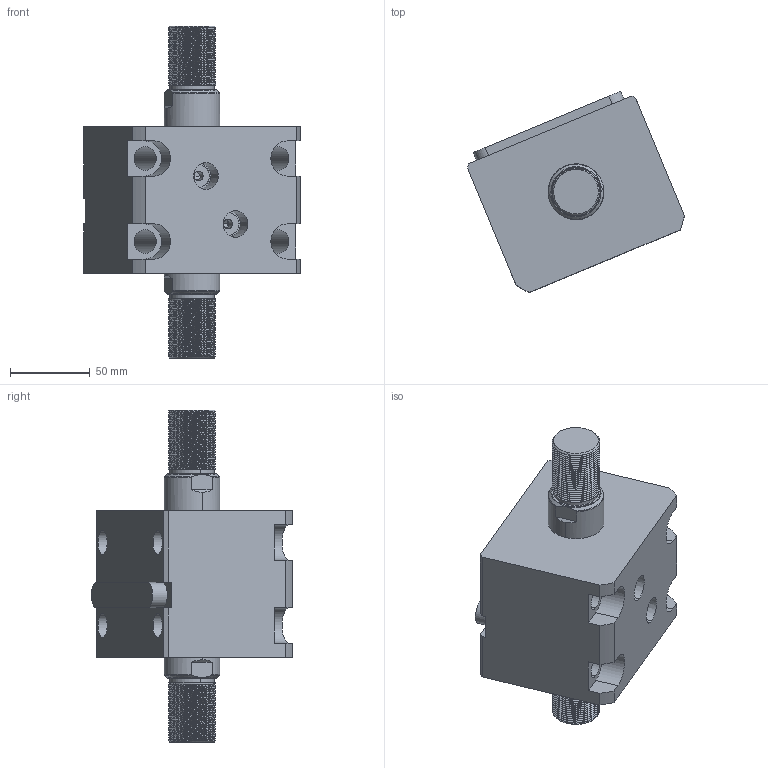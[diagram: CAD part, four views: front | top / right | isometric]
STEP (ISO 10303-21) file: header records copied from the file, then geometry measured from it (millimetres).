
FILE_DESCRIPTION (( 'STEP AP214' ), '1' );
FILE_NAME ('chtb-lw63x10w_asm.STEP', '2018-05-18T07:57:05', ( 'Windows' ), ( 'Microsoft' ), 'SwSTEP 2.0', 'SolidWorks 2015', '' );
FILE_SCHEMA (( 'AUTOMOTIVE_DESIGN' ));
Length unit declared in the file: millimetre
Products named in the file (5): CHTB-SW63X10WHSG; CHTB-LW63X10NBT; CHTB-LA63PJ; CHTB-63QG; chtb-lw63x10w_asm
Assembly tree (4 placements, depth 2):
  chtb-lw63x10w_asm
    CHTB-63QG
    CHTB-LA63PJ
    CHTB-LW63X10NBT
    CHTB-SW63X10WHSG
Bounding box: 135.77 x 126.06 x 208 mm (x, y, z)
Volume: 920517.4 mm3; surface area: 148317.9 mm2
Topology: 4 solids, 4 shells, 306 faces, 889 edges, 601 vertices
Faces by surface type: cylinder 204, plane 58, bspline 16, cone 16, torus 12
Entity records: 27878 total; most frequent: CARTESIAN_POINT 20531, ORIENTED_EDGE 1770, DIRECTION 1228, EDGE_CURVE 885, VERTEX_POINT 601, AXIS2_PLACEMENT_3D 458, EDGE_LOOP 336, VECTOR 312
